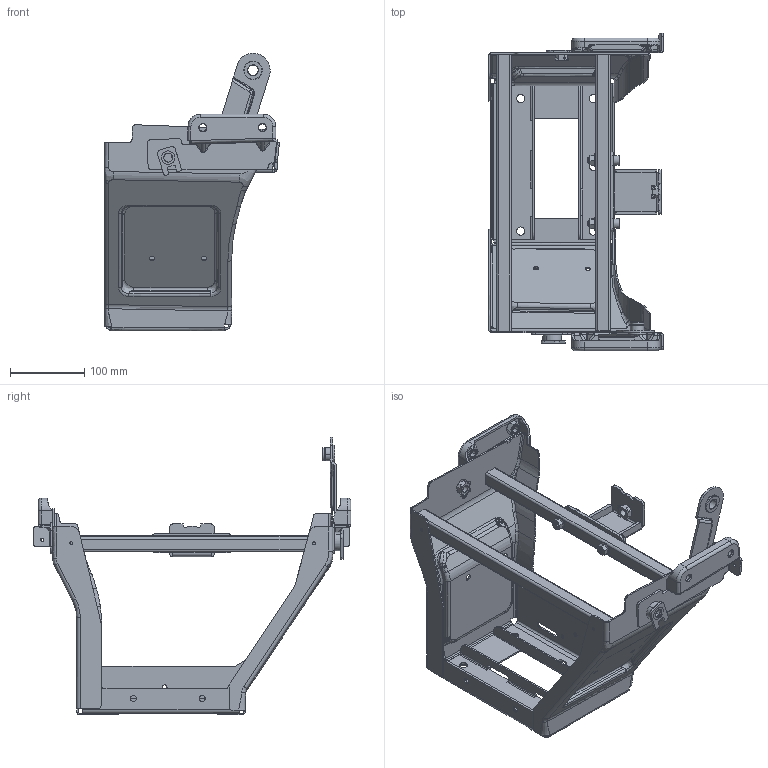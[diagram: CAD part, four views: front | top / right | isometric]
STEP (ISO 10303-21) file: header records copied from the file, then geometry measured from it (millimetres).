
FILE_DESCRIPTION(('CATIA V5 STEP Exchange'),'2;1');
FILE_NAME('C:\Users\Administrator\Desktop\SHT0018555_A.stp','2025-11-12T05:55:08+00:00',('none'),('none'),'CATIA Version 5 Release 20 GA (IN-10)','CATIA V5 STEP AP214','none');
FILE_SCHEMA(('AUTOMOTIVE_DESIGN { 1 0 10303 214 1 1 1 1 }'));
Products named in the file (21): SHT0018555; SHT0018556; SHT0018557; SHT0018558; SHT0018560; H4681020316A0; H4681010215A0; H4681010216A0; H4681010391A0; H4A-6901203; GB/T70.1-2000.1; GB/T70.1-2000.2; Q32008.1; Q32008.2; SHT0013313; SHT0013314; SHT0010408; SHT0019044; SHT0019045; Q370C10; H4B-6805326
Assembly tree (24 placements, depth 3):
  SHT0018555
    SHT0018556
    SHT0018557
    SHT0018558
    SHT0018560
    H4681020316A0
    H4681010215A0
    H4681010216A0
    H4681010391A0
    H4A-6901203
    GB/T70.1-2000.1
    GB/T70.1-2000.2
    Q32008.1
    Q32008.2
    SHT0013313
      SHT0013314
      SHT0010408
    SHT0019044
    SHT0019045
    Q370C10  x4
    H4B-6805326  x2
Bounding box: 234.96 x 426.64 x 373 mm (x, y, z)
Volume: 680926.4 mm3; surface area: 630579.9 mm2
Topology: 23 solids, 23 shells, 1666 faces, 4881 edges, 3238 vertices
Faces by surface type: bspline 534, plane 488, cylinder 448, cone 88, torus 40, extrusion 36, sphere 32
Entity records: 157822 total; most frequent: CARTESIAN_POINT 123821, ORIENTED_EDGE 8924, EDGE_CURVE 4462, DIRECTION 3757, VERTEX_POINT 2992, B_SPLINE_CURVE_WITH_KNOTS 2425, EDGE_LOOP 1636, ADVANCED_FACE 1518
